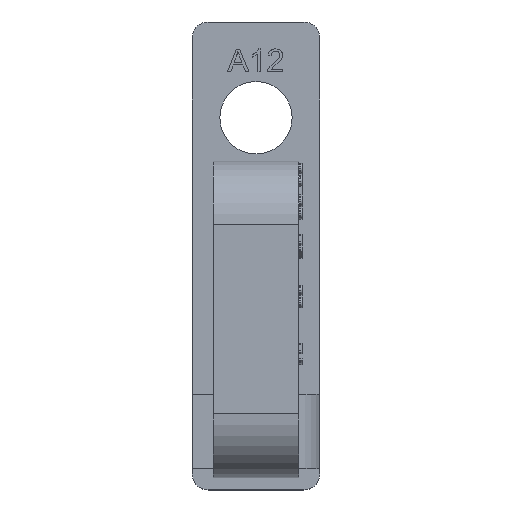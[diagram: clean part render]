
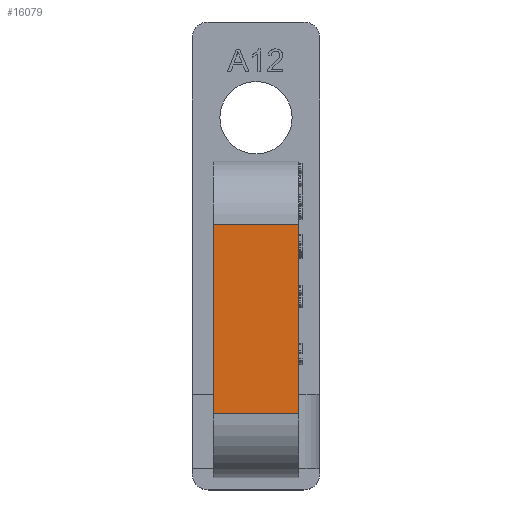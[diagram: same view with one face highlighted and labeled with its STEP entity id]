
A CAD part, top view. The second image highlights one B-rep face of the part: STEP entity #16079.
In plain terms, the highlighted planar face has unit normal (0, 0, 1).
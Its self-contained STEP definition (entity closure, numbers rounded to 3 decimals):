
#3196 = PLANE('',#3197);
#3197 = AXIS2_PLACEMENT_3D('',#3198,#3199,#3200);
#3198 = CARTESIAN_POINT('',(-4.,-0.227,47.191));
#3199 = DIRECTION('',(1.,0.,0.));
#3200 = DIRECTION('',(-0.,0.,1.));
#3246 = PLANE('',#3247);
#3247 = AXIS2_PLACEMENT_3D('',#3248,#3249,#3250);
#3248 = CARTESIAN_POINT('',(4.,-0.227,47.191));
#3249 = DIRECTION('',(1.,0.,0.));
#3250 = DIRECTION('',(-0.,0.,1.));
#6334 = VERTEX_POINT('',#6335);
#6335 = CARTESIAN_POINT('',(-4.,2.787,86.));
#6350 = CYLINDRICAL_SURFACE('',#6351,6.);
#6351 = AXIS2_PLACEMENT_3D('',#6352,#6353,#6354);
#6352 = CARTESIAN_POINT('',(-4.,2.787,80.));
#6353 = DIRECTION('',(-1.,-0.,-0.));
#6354 = DIRECTION('',(0.,1.,0.));
#6362 = EDGE_CURVE('',#6334,#6363,#6365,.T.);
#6363 = VERTEX_POINT('',#6364);
#6364 = CARTESIAN_POINT('',(-4.,-15.,86.));
#6365 = SURFACE_CURVE('',#6366,(#6370,#6377),.PCURVE_S1.);
#6366 = LINE('',#6367,#6368);
#6367 = CARTESIAN_POINT('',(-4.,2.787,86.));
#6368 = VECTOR('',#6369,1.);
#6369 = DIRECTION('',(0.,-1.,0.));
#6370 = PCURVE('',#3196,#6371);
#6371 = DEFINITIONAL_REPRESENTATION('',(#6372),#6376);
#6372 = LINE('',#6373,#6374);
#6373 = CARTESIAN_POINT('',(38.809,-3.015));
#6374 = VECTOR('',#6375,1.);
#6375 = DIRECTION('',(0.,1.));
#6376 = ( GEOMETRIC_REPRESENTATION_CONTEXT(2) 
PARAMETRIC_REPRESENTATION_CONTEXT() REPRESENTATION_CONTEXT('2D SPACE',''
  ) );
#6377 = PCURVE('',#6378,#6383);
#6378 = PLANE('',#6379);
#6379 = AXIS2_PLACEMENT_3D('',#6380,#6381,#6382);
#6380 = CARTESIAN_POINT('',(-4.,2.787,86.));
#6381 = DIRECTION('',(0.,0.,-1.));
#6382 = DIRECTION('',(0.,-1.,0.));
#6383 = DEFINITIONAL_REPRESENTATION('',(#6384),#6388);
#6384 = LINE('',#6385,#6386);
#6385 = CARTESIAN_POINT('',(0.,-0.));
#6386 = VECTOR('',#6387,1.);
#6387 = DIRECTION('',(1.,0.));
#6388 = ( GEOMETRIC_REPRESENTATION_CONTEXT(2) 
PARAMETRIC_REPRESENTATION_CONTEXT() REPRESENTATION_CONTEXT('2D SPACE',''
  ) );
#6407 = CYLINDRICAL_SURFACE('',#6408,6.);
#6408 = AXIS2_PLACEMENT_3D('',#6409,#6410,#6411);
#6409 = CARTESIAN_POINT('',(-4.,-15.,80.));
#6410 = DIRECTION('',(-1.,-0.,-0.));
#6411 = DIRECTION('',(-0.,0.,1.));
#6846 = VERTEX_POINT('',#6847);
#6847 = CARTESIAN_POINT('',(4.,2.787,86.));
#6869 = EDGE_CURVE('',#6846,#6870,#6872,.T.);
#6870 = VERTEX_POINT('',#6871);
#6871 = CARTESIAN_POINT('',(4.,-15.,86.));
#6872 = SURFACE_CURVE('',#6873,(#6877,#6884),.PCURVE_S1.);
#6873 = LINE('',#6874,#6875);
#6874 = CARTESIAN_POINT('',(4.,2.787,86.));
#6875 = VECTOR('',#6876,1.);
#6876 = DIRECTION('',(0.,-1.,0.));
#6877 = PCURVE('',#3246,#6878);
#6878 = DEFINITIONAL_REPRESENTATION('',(#6879),#6883);
#6879 = LINE('',#6880,#6881);
#6880 = CARTESIAN_POINT('',(38.809,-3.015));
#6881 = VECTOR('',#6882,1.);
#6882 = DIRECTION('',(0.,1.));
#6883 = ( GEOMETRIC_REPRESENTATION_CONTEXT(2) 
PARAMETRIC_REPRESENTATION_CONTEXT() REPRESENTATION_CONTEXT('2D SPACE',''
  ) );
#6884 = PCURVE('',#6378,#6885);
#6885 = DEFINITIONAL_REPRESENTATION('',(#6886),#6890);
#6886 = LINE('',#6887,#6888);
#6887 = CARTESIAN_POINT('',(0.,-8.));
#6888 = VECTOR('',#6889,1.);
#6889 = DIRECTION('',(1.,0.));
#6890 = ( GEOMETRIC_REPRESENTATION_CONTEXT(2) 
PARAMETRIC_REPRESENTATION_CONTEXT() REPRESENTATION_CONTEXT('2D SPACE',''
  ) );
#16056 = EDGE_CURVE('',#6363,#6870,#16057,.T.);
#16057 = SURFACE_CURVE('',#16058,(#16062,#16069),.PCURVE_S1.);
#16058 = LINE('',#16059,#16060);
#16059 = CARTESIAN_POINT('',(-4.,-15.,86.));
#16060 = VECTOR('',#16061,1.);
#16061 = DIRECTION('',(1.,0.,0.));
#16062 = PCURVE('',#6407,#16063);
#16063 = DEFINITIONAL_REPRESENTATION('',(#16064),#16068);
#16064 = LINE('',#16065,#16066);
#16065 = CARTESIAN_POINT('',(-0.,0.));
#16066 = VECTOR('',#16067,1.);
#16067 = DIRECTION('',(-0.,-1.));
#16068 = ( GEOMETRIC_REPRESENTATION_CONTEXT(2) 
PARAMETRIC_REPRESENTATION_CONTEXT() REPRESENTATION_CONTEXT('2D SPACE',''
  ) );
#16069 = PCURVE('',#6378,#16070);
#16070 = DEFINITIONAL_REPRESENTATION('',(#16071),#16075);
#16071 = LINE('',#16072,#16073);
#16072 = CARTESIAN_POINT('',(17.787,0.));
#16073 = VECTOR('',#16074,1.);
#16074 = DIRECTION('',(0.,-1.));
#16075 = ( GEOMETRIC_REPRESENTATION_CONTEXT(2) 
PARAMETRIC_REPRESENTATION_CONTEXT() REPRESENTATION_CONTEXT('2D SPACE',''
  ) );
#16079 = ADVANCED_FACE('',(#16080),#6378,.F.);
#16080 = FACE_BOUND('',#16081,.F.);
#16081 = EDGE_LOOP('',(#16082,#16103,#16104,#16105));
#16082 = ORIENTED_EDGE('',*,*,#16083,.T.);
#16083 = EDGE_CURVE('',#6334,#6846,#16084,.T.);
#16084 = SURFACE_CURVE('',#16085,(#16089,#16096),.PCURVE_S1.);
#16085 = LINE('',#16086,#16087);
#16086 = CARTESIAN_POINT('',(-4.,2.787,86.));
#16087 = VECTOR('',#16088,1.);
#16088 = DIRECTION('',(1.,0.,0.));
#16089 = PCURVE('',#6378,#16090);
#16090 = DEFINITIONAL_REPRESENTATION('',(#16091),#16095);
#16091 = LINE('',#16092,#16093);
#16092 = CARTESIAN_POINT('',(0.,-0.));
#16093 = VECTOR('',#16094,1.);
#16094 = DIRECTION('',(0.,-1.));
#16095 = ( GEOMETRIC_REPRESENTATION_CONTEXT(2) 
PARAMETRIC_REPRESENTATION_CONTEXT() REPRESENTATION_CONTEXT('2D SPACE',''
  ) );
#16096 = PCURVE('',#6350,#16097);
#16097 = DEFINITIONAL_REPRESENTATION('',(#16098),#16102);
#16098 = LINE('',#16099,#16100);
#16099 = CARTESIAN_POINT('',(-1.571,0.));
#16100 = VECTOR('',#16101,1.);
#16101 = DIRECTION('',(-0.,-1.));
#16102 = ( GEOMETRIC_REPRESENTATION_CONTEXT(2) 
PARAMETRIC_REPRESENTATION_CONTEXT() REPRESENTATION_CONTEXT('2D SPACE',''
  ) );
#16103 = ORIENTED_EDGE('',*,*,#6869,.T.);
#16104 = ORIENTED_EDGE('',*,*,#16056,.F.);
#16105 = ORIENTED_EDGE('',*,*,#6362,.F.);
